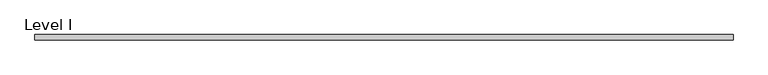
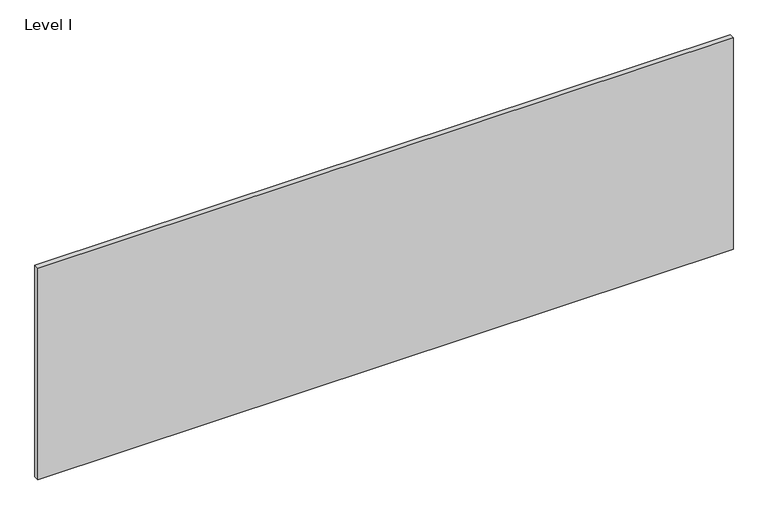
"""IFC4 building model written with IfcOpenShell, lengths in millimetres: proxy geometry, Panel-Fascia-Teknion-Altos-Landscape : Level I."""

from ifc_helpers import new_model, si_unit, frame, origin, place, context, project, spatial, polyline, outline, extrude, source, transform, mapped, element, save


def level_i_0f8aae00(model_context):
    return source(origin(), model_context, "Body", "SweptSolid", [
        extrude(outline(polyline([(1259.8356344, 9.525), (1259.8356344, -9.525), (-1259.8356344, -9.525), (-1259.8356344, 9.525), (1259.8356344, 9.525)])), frame((0.0, 0.0, 3.175), z_axis=(0.0, 0.0, 1.0), x_axis=(1.0, 0.0, 0.0)), (0.0, 0.0, 1.0), 810.768),
    ])


if __name__ == "__main__":
    model = new_model("IFC4")
    model_context = context("Model", 3, world=origin())
    ifc_project = project(units=[si_unit("LENGTHUNIT", "METRE", prefix="MILLI")], contexts=[model_context])
    site = spatial("IfcSite", under=ifc_project)
    building = spatial("IfcBuilding", under=site)
    placement = place(None, origin())
    level_i_shape = level_i_0f8aae00(model_context)
    element("IfcBuildingElementProxy", 1, Name="Panel-Fascia-Teknion-Altos-Landscape : Level I", ObjectType="Panel-Fascia-Teknion-Altos-Landscape : Level I", at=placement, inside=building, context=model_context, shape_type="MappedRepresentation", body=[
        mapped(level_i_shape, transform((0.0, 0.0, 0.0), x_axis=(1.0, 0.0, 0.0), y_axis=(0.0, 1.0, 0.0), z_axis=(0.0, 0.0, 1.0))),
    ])
    save(model, "model.ifc")
